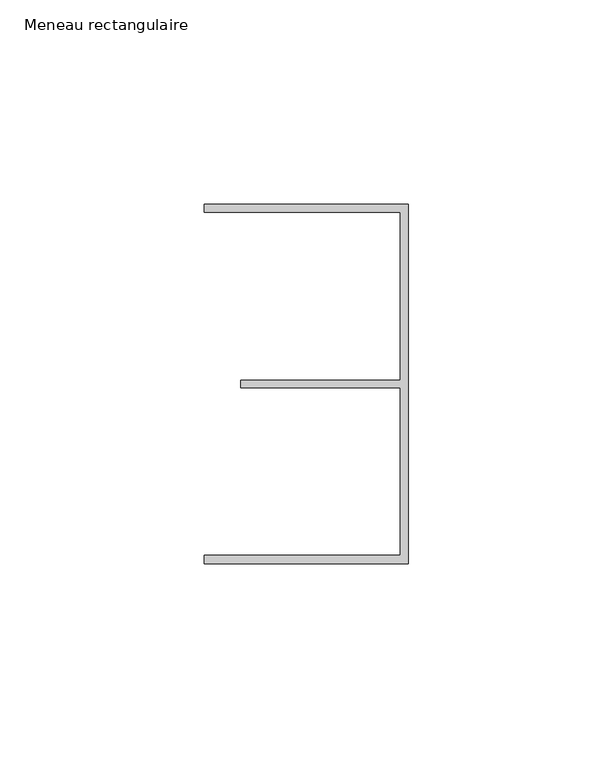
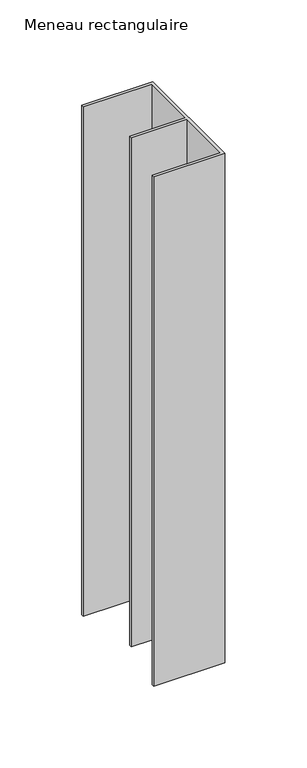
"""IFC4 building model written with IfcOpenShell, lengths in millimetres: member geometry, Meneau rectangulaire : LISSERIE_SOL_COIFFANTE 94-KLS00-P80-SD41ALU."""

from ifc_helpers import new_model, si_unit, frame, origin, place, context, project, spatial, polyline, outline, extrude, source, transform, mapped, element, save


def meneau_rectangulaire_07d762ce(model_context):
    return source(origin(), model_context, "Body", "SweptSolid", [
        extrude(outline(polyline([(0.0, -44.0), (-50.0, -44.0), (-50.0, -42.0), (-2.0, -42.0), (-2.0, -0.9316478), (-41.0, -0.9316478), (-41.0, 0.9316478), (-2.0, 0.9316478), (-2.0, 42.0), (-50.0, 42.0), (-50.0, 44.0), (0.0, 44.0), (0.0, -44.0)])), frame((0.0, 0.0, -379.8), z_axis=(0.0, 0.0, 1.0), x_axis=(1.0, 0.0, 0.0)), (0.0, 0.0, 1.0), 379.8),
    ])


if __name__ == "__main__":
    model = new_model("IFC4")
    model_context = context("Model", 3, world=origin())
    ifc_project = project(units=[si_unit("LENGTHUNIT", "METRE", prefix="MILLI")], contexts=[model_context])
    site = spatial("IfcSite", under=ifc_project)
    building = spatial("IfcBuilding", under=site)
    placement = place(None, origin())
    meneau_rectangulaire_shape = meneau_rectangulaire_07d762ce(model_context)
    element("IfcMember", 1, ObjectType="Meneau rectangulaire : LISSERIE_SOL_COIFFANTE 94-KLS00-P80-SD41ALU", at=placement, inside=building, context=model_context, shape_type="MappedRepresentation", body=[
        mapped(meneau_rectangulaire_shape, transform((0.0, 0.0, 0.0), x_axis=(1.0, 0.0, 0.0), y_axis=(0.0, 1.0, 0.0), z_axis=(0.0, 0.0, 1.0))),
    ])
    save(model, "model.ifc")
